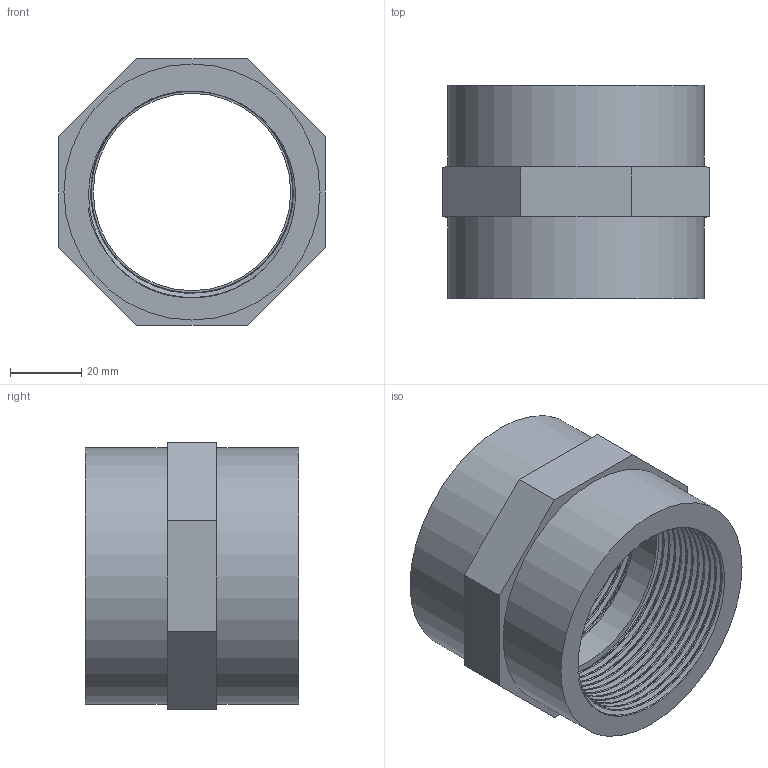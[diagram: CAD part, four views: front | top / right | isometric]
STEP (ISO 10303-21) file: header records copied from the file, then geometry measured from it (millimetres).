
FILE_DESCRIPTION(/* description */ ('PVC manicotto filettato BSP femmina'),/* implementation_level */ '2;1');
FILE_NAME(/* name */ 'C:\Users\POLYPIPE\Desktop\DATASET INVENTOR\LIBRERIA EFFAST\RACCORDI 3DxWEB\RER\3D_RERMAE\3D_RERMAE063G.stp',/* time_stamp */ '2018-01-19T16:37:37+01:00',/* author */ ('POLYPIPE'),/* organization */ ('Polypipe Italia'),/* preprocessor_version */ 'ST-DEVELOPER v16.1',/* originating_system */ 'Autodesk Inventor 2016',/* authorisation */ '');
FILE_SCHEMA (('CONFIG_CONTROL_DESIGN'));
Length unit declared in the file: millimetre
Products named in the file (1): 3D_RERMAE
Bounding box: 75 x 60 x 75 mm (x, y, z)
Volume: 95214.3 mm3; surface area: 35945.2 mm2
Topology: 1 solids, 1 shells, 27 faces, 63 edges, 42 vertices
Faces by surface type: plane 14, bspline 10, cylinder 3
Full cylindrical faces by diameter (mm): 55.456 x1, 72 x2
Entity records: 9614 total; most frequent: CARTESIAN_POINT 9058, ORIENTED_EDGE 120, DIRECTION 72, EDGE_CURVE 60, VERTEX_POINT 42, EDGE_LOOP 36, B_SPLINE_CURVE_WITH_KNOTS 30, FACE_OUTER_BOUND 27
